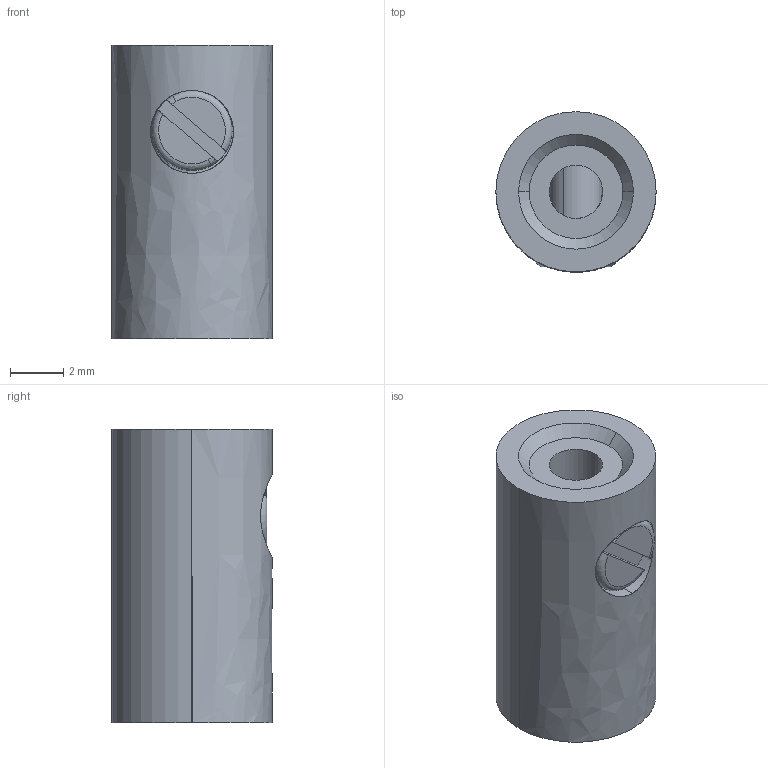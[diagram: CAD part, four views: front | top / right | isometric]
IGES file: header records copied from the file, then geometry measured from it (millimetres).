
Start section: START RECORD GO HERE.
Global section: file name: Zwergkupplung.igs; native system: IBM CATIA IGES - CATIA Version 5 Release 19 ; preprocessor: CATIA Version 5 Release 19 ; author: Administrator; organization: M0000815; date: 20230220.210719; units: millimetre
Bounding box: 6 x 6 x 11 mm (x, y, z)
Surface area: 605.2 mm2 (no closed solid volume)
Topology: 0 solids, 0 shells, 36 faces, 160 edges, 160 vertices
Faces by surface type: revolution 24, plane 12
